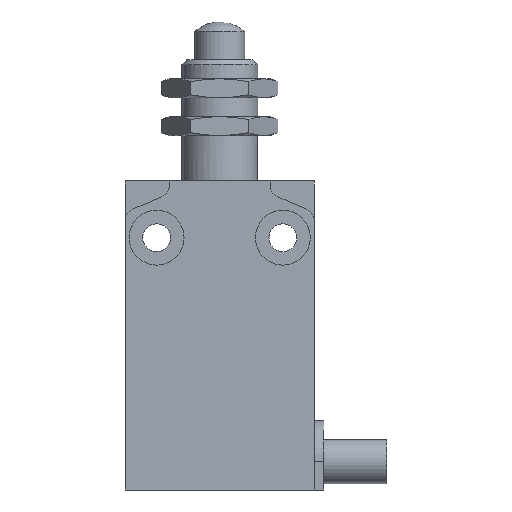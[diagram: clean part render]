
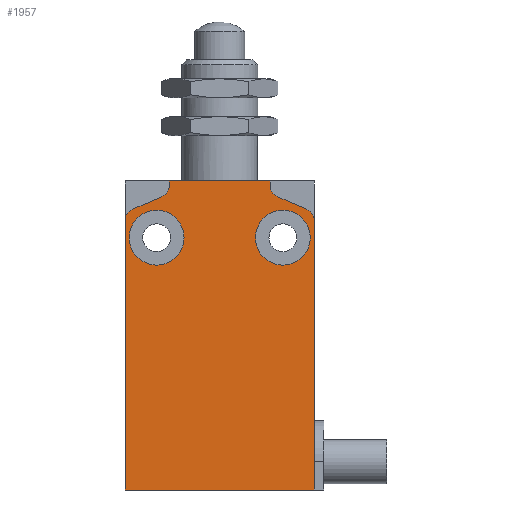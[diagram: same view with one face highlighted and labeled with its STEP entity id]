
A CAD part, front view. The second image highlights one B-rep face of the part: STEP entity #1957.
In plain terms, the highlighted planar face has unit normal (0, -1, 0).
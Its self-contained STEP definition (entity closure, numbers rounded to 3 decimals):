
#89=FACE_BOUND('',#461,.T.);
#90=FACE_BOUND('',#462,.T.);
#135=PLANE('',#2197);
#332=FACE_OUTER_BOUND('',#460,.T.);
#460=EDGE_LOOP('',(#1691,#1692,#1693,#1694,#1695,#1696,#1697,#1698,#1699,
#1700,#1701,#1702));
#461=EDGE_LOOP('',(#1703));
#462=EDGE_LOOP('',(#1704));
#546=LINE('',#3274,#673);
#573=LINE('',#3361,#700);
#574=LINE('',#3365,#701);
#575=LINE('',#3367,#702);
#576=LINE('',#3369,#703);
#577=LINE('',#3373,#704);
#578=LINE('',#3377,#705);
#579=LINE('',#3378,#706);
#673=VECTOR('',#2581,42.681);
#700=VECTOR('',#2674,4.978);
#701=VECTOR('',#2677,0.681);
#702=VECTOR('',#2678,16.);
#703=VECTOR('',#2679,0.681);
#704=VECTOR('',#2682,4.978);
#705=VECTOR('',#2685,42.681);
#706=VECTOR('',#2686,30.);
#803=CIRCLE('',#2153,4.35);
#808=CIRCLE('',#2160,4.35);
#823=CIRCLE('',#2195,2.);
#825=CIRCLE('',#2198,2.);
#826=CIRCLE('',#2199,2.);
#827=CIRCLE('',#2200,2.);
#931=VERTEX_POINT('',#3225);
#936=VERTEX_POINT('',#3239);
#951=VERTEX_POINT('',#3271);
#952=VERTEX_POINT('',#3273);
#977=VERTEX_POINT('',#3354);
#979=VERTEX_POINT('',#3360);
#980=VERTEX_POINT('',#3362);
#981=VERTEX_POINT('',#3364);
#982=VERTEX_POINT('',#3366);
#983=VERTEX_POINT('',#3368);
#984=VERTEX_POINT('',#3370);
#985=VERTEX_POINT('',#3372);
#986=VERTEX_POINT('',#3374);
#987=VERTEX_POINT('',#3376);
#1167=EDGE_CURVE('',#931,#931,#803,.T.);
#1175=EDGE_CURVE('',#936,#936,#808,.T.);
#1190=EDGE_CURVE('',#951,#952,#546,.T.);
#1228=EDGE_CURVE('',#977,#951,#823,.T.);
#1231=EDGE_CURVE('',#977,#979,#573,.T.);
#1232=EDGE_CURVE('',#980,#979,#825,.T.);
#1233=EDGE_CURVE('',#980,#981,#574,.T.);
#1234=EDGE_CURVE('',#982,#981,#575,.T.);
#1235=EDGE_CURVE('',#982,#983,#576,.T.);
#1236=EDGE_CURVE('',#984,#983,#826,.T.);
#1237=EDGE_CURVE('',#984,#985,#577,.T.);
#1238=EDGE_CURVE('',#986,#985,#827,.T.);
#1239=EDGE_CURVE('',#987,#986,#578,.T.);
#1240=EDGE_CURVE('',#952,#987,#579,.T.);
#1691=ORIENTED_EDGE('',*,*,#1228,.F.);
#1692=ORIENTED_EDGE('',*,*,#1231,.T.);
#1693=ORIENTED_EDGE('',*,*,#1232,.F.);
#1694=ORIENTED_EDGE('',*,*,#1233,.T.);
#1695=ORIENTED_EDGE('',*,*,#1234,.F.);
#1696=ORIENTED_EDGE('',*,*,#1235,.T.);
#1697=ORIENTED_EDGE('',*,*,#1236,.F.);
#1698=ORIENTED_EDGE('',*,*,#1237,.T.);
#1699=ORIENTED_EDGE('',*,*,#1238,.F.);
#1700=ORIENTED_EDGE('',*,*,#1239,.F.);
#1701=ORIENTED_EDGE('',*,*,#1240,.F.);
#1702=ORIENTED_EDGE('',*,*,#1190,.F.);
#1703=ORIENTED_EDGE('',*,*,#1175,.T.);
#1704=ORIENTED_EDGE('',*,*,#1167,.T.);
#1957=ADVANCED_FACE('',(#332,#89,#90),#135,.T.);
#2153=AXIS2_PLACEMENT_3D('',#3226,#2542,#2543);
#2160=AXIS2_PLACEMENT_3D('',#3241,#2559,#2560);
#2195=AXIS2_PLACEMENT_3D('',#3355,#2667,#2668);
#2197=AXIS2_PLACEMENT_3D('',#3359,#2672,#2673);
#2198=AXIS2_PLACEMENT_3D('',#3363,#2675,#2676);
#2199=AXIS2_PLACEMENT_3D('',#3371,#2680,#2681);
#2200=AXIS2_PLACEMENT_3D('',#3375,#2683,#2684);
#2542=DIRECTION('center_axis',(0.,1.,0.));
#2543=DIRECTION('ref_axis',(-1.,0.,0.));
#2559=DIRECTION('center_axis',(0.,1.,0.));
#2560=DIRECTION('ref_axis',(1.,0.,0.));
#2581=DIRECTION('',(0.,0.,-1.));
#2667=DIRECTION('center_axis',(0.,1.,0.));
#2668=DIRECTION('ref_axis',(0.835,0.,0.55));
#2672=DIRECTION('center_axis',(0.,-1.,0.));
#2673=DIRECTION('ref_axis',(1.,0.,0.));
#2674=DIRECTION('',(-0.919,0.,0.394));
#2675=DIRECTION('center_axis',(0.,-1.,0.));
#2676=DIRECTION('ref_axis',(-0.835,0.,-0.55));
#2677=DIRECTION('',(0.,0.,1.));
#2678=DIRECTION('',(1.,0.,0.));
#2679=DIRECTION('',(0.,0.,-1.));
#2680=DIRECTION('center_axis',(0.,-1.,0.));
#2681=DIRECTION('ref_axis',(0.835,0.,-0.55));
#2682=DIRECTION('',(-0.919,0.,-0.394));
#2683=DIRECTION('center_axis',(0.,1.,0.));
#2684=DIRECTION('ref_axis',(-0.835,0.,0.55));
#2685=DIRECTION('',(0.,0.,1.));
#2686=DIRECTION('',(-1.,0.,0.));
#3225=CARTESIAN_POINT('',(-14.35,-16.,0.));
#3226=CARTESIAN_POINT('Origin',(-10.,-16.,0.));
#3239=CARTESIAN_POINT('',(5.65,-16.,0.));
#3241=CARTESIAN_POINT('Origin',(10.,-16.,0.));
#3271=CARTESIAN_POINT('',(15.,-16.,2.681));
#3273=CARTESIAN_POINT('',(15.,-16.,-40.));
#3274=CARTESIAN_POINT('',(15.,-16.,2.681));
#3354=CARTESIAN_POINT('',(13.788,-16.,4.519));
#3355=CARTESIAN_POINT('Origin',(13.,-16.,2.681));
#3359=CARTESIAN_POINT('Origin',(0.,-16.,-15.5));
#3360=CARTESIAN_POINT('',(9.212,-16.,6.481));
#3361=CARTESIAN_POINT('',(13.788,-16.,4.519));
#3362=CARTESIAN_POINT('',(8.,-16.,8.319));
#3363=CARTESIAN_POINT('Origin',(10.,-16.,8.319));
#3364=CARTESIAN_POINT('',(8.,-16.,9.));
#3365=CARTESIAN_POINT('',(8.,-16.,8.319));
#3366=CARTESIAN_POINT('',(-8.,-16.,9.));
#3367=CARTESIAN_POINT('',(-8.,-16.,9.));
#3368=CARTESIAN_POINT('',(-8.,-16.,8.319));
#3369=CARTESIAN_POINT('',(-8.,-16.,9.));
#3370=CARTESIAN_POINT('',(-9.212,-16.,6.481));
#3371=CARTESIAN_POINT('Origin',(-10.,-16.,8.319));
#3372=CARTESIAN_POINT('',(-13.788,-16.,4.519));
#3373=CARTESIAN_POINT('',(-9.212,-16.,6.481));
#3374=CARTESIAN_POINT('',(-15.,-16.,2.681));
#3375=CARTESIAN_POINT('Origin',(-13.,-16.,2.681));
#3376=CARTESIAN_POINT('',(-15.,-16.,-40.));
#3377=CARTESIAN_POINT('',(-15.,-16.,-40.));
#3378=CARTESIAN_POINT('',(15.,-16.,-40.));
